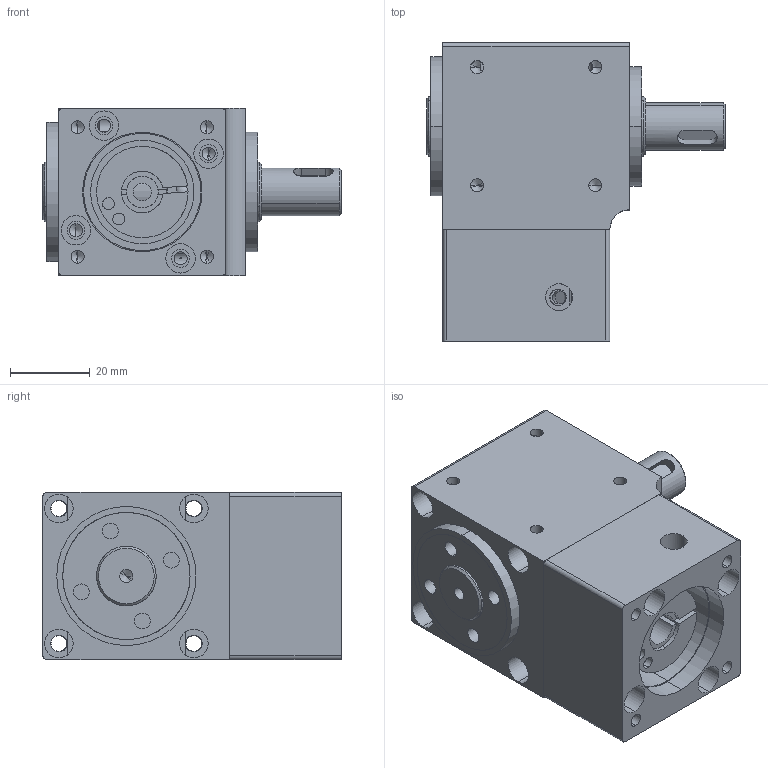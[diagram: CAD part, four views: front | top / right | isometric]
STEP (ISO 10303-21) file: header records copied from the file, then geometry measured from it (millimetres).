
FILE_DESCRIPTION (( 'STEP AP203' ), '1' );
FILE_NAME ('42单轴（台达100W）.STEP', '2021-05-31T11:05:32', ( 'User' ), ( 'China' ), 'SwSTEP 2.0', 'SolidWorks 2015', '' );
FILE_SCHEMA (( 'CONFIG_CONTROL_DESIGN' ));
Length unit declared in the file: millimetre
Products named in the file (11): 蹟譫; 蹟譫ㄗ2ㄘ; 標杶ㄗ1ㄘ; deep groove ball bearings gb_Rolling bearings 6001 GB 276-94; deep groove ball bearings gb_Rolling bearings 6002 GB 276-94; deep groove ball bearings gb_Rolling bearings 61902 GB 276-94; 褲极; 綴楊擘ㄗ怢湛100Wㄘ; 怀堤粣ㄗ等粣ㄘ; 42等粣ㄗ怢湛100Wㄘ; 输入轴
Assembly tree (10 placements, depth 2):
  42等粣ㄗ怢湛100Wㄘ
    褲极
    怀堤粣ㄗ等粣ㄘ
    输入轴
    蹟譫
    蹟譫ㄗ2ㄘ
    標杶ㄗ1ㄘ
    deep groove ball bearings gb_Rolling bearings 6001 GB 276-94
    deep groove ball bearings gb_Rolling bearings 6002 GB 276-94
    deep groove ball bearings gb_Rolling bearings 61902 GB 276-94
    綴楊擘ㄗ怢湛100Wㄘ
Bounding box: 75 x 75 x 42 mm (x, y, z)
Volume: 102241.9 mm3; surface area: 55716.3 mm2
Topology: 10 solids, 10 shells, 673 faces, 2425 edges, 1593 vertices
Faces by surface type: cylinder 238, torus 177, sphere 98, plane 89, cone 71
Entity records: 29400 total; most frequent: CARTESIAN_POINT 9823, ORIENTED_EDGE 4178, DIRECTION 3681, EDGE_CURVE 2089, AXIS2_PLACEMENT_3D 1657, VERTEX_POINT 1397, CIRCLE 971, EDGE_LOOP 802
